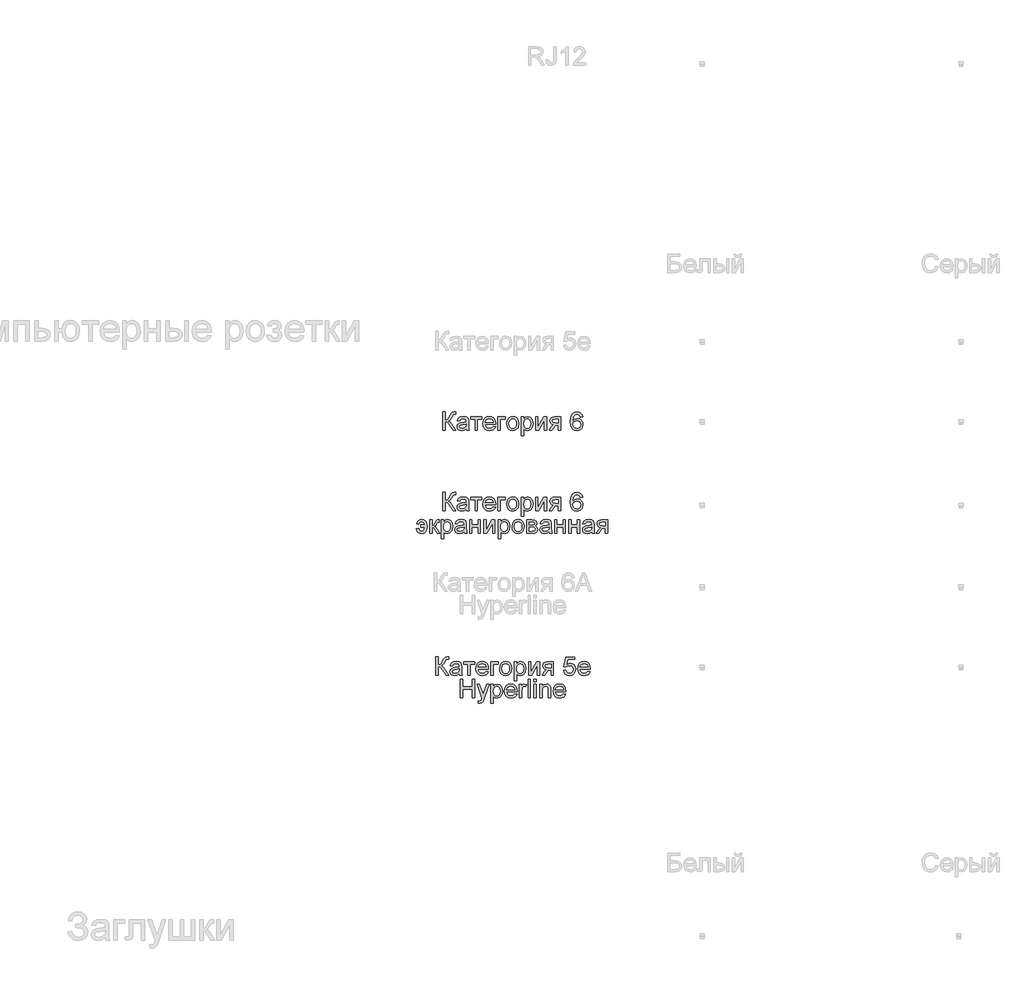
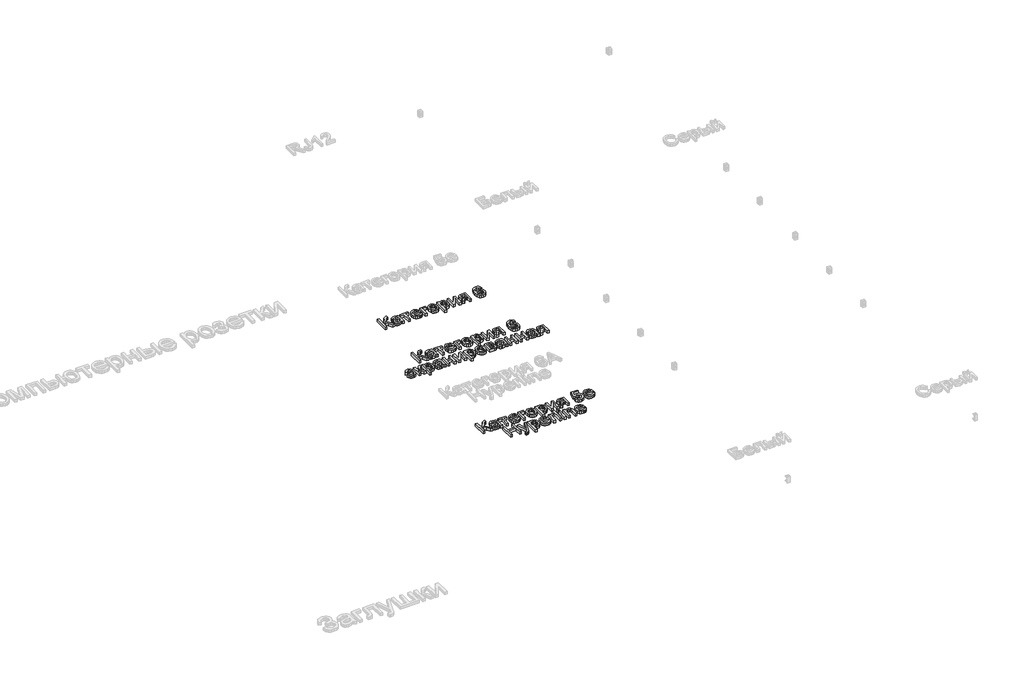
# One storey, part 8 of 15: 3 proxies.
"""IFC4 building model written with IfcOpenShell, lengths in millimetres."""

import ifcopenshell
import ifcopenshell.guid

model = None  # the IFC model being written
_history = None  # IfcOwnerHistory: only IFC2X3 demands one
_inside = {}  # id of a spatial element -> (the spatial element, [elements in it])
_under = {}  # id of a project, library or spatial element -> (it, [spatial elements below it])
_declared = {}  # id of a project -> (the project, [libraries it declares])
_typed = {}  # id of a type object -> (the type object, [elements of that type])
_made_of = {}  # id of a material, layer set ... -> (it, [elements and type objects made of it])


def new_model(schema):
    """Start an empty IFC model of exactly this schema.

    Asked for "IFC4X3", IfcOpenShell would pick the latest addendum, in which some entities
    have other attributes; the version numbers below select the first issue.
    IFC2X3 requires an IfcOwnerHistory on every rooted entity: one is made here for all.
    """
    global model, _history
    if schema == "IFC4X3":
        model = ifcopenshell.file(schema_version=(4, 3, 0, 0))
    else:
        model = ifcopenshell.file(schema=schema)
    _inside.clear()
    _under.clear()
    _declared.clear()
    _typed.clear()
    _made_of.clear()
    _history = None
    if model.schema == "IFC2X3":
        org = make("IfcOrganization", Name="unknown")
        user = make(
            "IfcPersonAndOrganization",
            ThePerson=make("IfcPerson", FamilyName="unknown"),
            TheOrganization=org,
        )
        app = make(
            "IfcApplication",
            ApplicationDeveloper=org,
            Version="unknown",
            ApplicationFullName="unknown",
            ApplicationIdentifier="unknown",
        )
        _history = make(
            "IfcOwnerHistory",
            OwningUser=user,
            OwningApplication=app,
            ChangeAction="ADDED",
            CreationDate=0,
        )
    return model


def make(cls, **values):
    """One entity of the class cls with the attributes given. An attribute that is None is left unset."""
    return model.create_entity(
        cls, **{name: value for name, value in values.items() if value is not None}
    )


def rooted(cls, **values):
    """An entity with a GlobalId (a new one), such as an element, a storey or a relation."""
    return make(cls, GlobalId=ifcopenshell.guid.new(), OwnerHistory=_history, **values)


def si_unit(unit_type, name, prefix=None):
    """IfcSIUnit, for example si_unit("LENGTHUNIT", "METRE", prefix="MILLI")."""
    return make("IfcSIUnit", UnitType=unit_type, Prefix=prefix, Name=name)


def assignment(units):
    """IfcUnitAssignment: the units of a project."""
    return None if units is None else make("IfcUnitAssignment", Units=units)


def point(xyz):
    """IfcCartesianPoint."""
    return None if xyz is None else make("IfcCartesianPoint", Coordinates=xyz)


def direction(xyz):
    """IfcDirection."""
    return None if xyz is None else make("IfcDirection", DirectionRatios=xyz)


def frame(location, z_axis=None, x_axis=None):
    """IfcAxis2Placement3D, a coordinate frame: its origin and axes. An axis left out is left unset."""
    return make(
        "IfcAxis2Placement3D",
        Location=point(location),
        Axis=direction(z_axis),
        RefDirection=direction(x_axis),
    )


def origin():
    """The frame at (0, 0, 0) with its axes left unset."""
    return frame((0.0, 0.0, 0.0))


def origin_with_axes():
    """The frame at (0, 0, 0) with the z axis (0, 0, 1) and the x axis (1, 0, 0) written out."""
    return frame((0.0, 0.0, 0.0), z_axis=(0.0, 0.0, 1.0), x_axis=(1.0, 0.0, 0.0))


def place(relative_to, where):
    """IfcLocalPlacement: puts the frame where relative to a parent placement (None: the world)."""
    return make(
        "IfcLocalPlacement", PlacementRelTo=relative_to, RelativePlacement=where
    )


def context(
    kind, dimensions, precision=None, world=None, true_north=None, identifier=None
):
    """IfcGeometricRepresentationContext, for example the 3D "Model" context."""
    return make(
        "IfcGeometricRepresentationContext",
        ContextIdentifier=identifier,
        ContextType=kind,
        CoordinateSpaceDimension=dimensions,
        Precision=precision,
        WorldCoordinateSystem=world,
        TrueNorth=true_north,
    )


def project(units=None, contexts=None):
    """IfcProject with its units and contexts."""
    return rooted(
        "IfcProject",
        Name="project",
        RepresentationContexts=contexts,
        UnitsInContext=assignment(units),
    )


def spatial(cls, under=None, at=None, **own):
    """A site, building, storey or space (cls), placed at a placement, below another one or the project."""
    s = rooted(cls, ObjectPlacement=at, **own)
    if under is not None:
        _under.setdefault(under.id(), (under, []))[1].append(s)
    return s


def polyline(points):
    """IfcPolyline through the points."""
    return make("IfcPolyline", Points=[point(p) for p in points])


def outline(outer, holes=None, kind="AREA"):
    """IfcArbitraryClosedProfileDef: a profile drawn as a closed curve; with holes, ...WithVoids."""
    if holes is None:
        return make("IfcArbitraryClosedProfileDef", ProfileType=kind, OuterCurve=outer)
    return make(
        "IfcArbitraryProfileDefWithVoids",
        ProfileType=kind,
        OuterCurve=outer,
        InnerCurves=holes,
    )


def extrude(swept, where, along, depth):
    """IfcExtrudedAreaSolid: the profile swept, set in the frame where, extruded along a direction by depth."""
    return make(
        "IfcExtrudedAreaSolid",
        SweptArea=swept,
        Position=where,
        ExtrudedDirection=direction(along),
        Depth=depth,
    )


def shape(context_of_items, identifier, shape_type, items):
    """IfcShapeRepresentation: the items that make up one representation, for example the "Body"."""
    return make(
        "IfcShapeRepresentation",
        ContextOfItems=context_of_items,
        RepresentationIdentifier=identifier,
        RepresentationType=shape_type,
        Items=items,
    )


def made_of(thing, what):
    """Note that an element or type object is made of a material, layer set ...; save() writes the relation."""
    if what is not None:
        _made_of.setdefault(what.id(), (what, []))[1].append(thing)
    return thing


def element(
    cls,
    number,
    at=None,
    inside=None,
    cuts=None,
    type_object=None,
    material=None,
    context=None,
    identifier="Body",
    shape_type=None,
    held_by="IfcProductDefinitionShape",
    body=None,
    shapes=None,
    **own,
):
    """One element of the class cls, such as IfcWall. Its Tag is "e" and its number.

    at: its placement. inside: the storey or other place that contains it. cuts: it is an
    opening in that element (IfcRelVoidsElement). A single representation is given by context,
    identifier, shape_type and body (its items); several are given by shapes. held_by: the class
    of the entity that holds the representations. save() writes the other relations.
    """
    e = rooted(cls, Tag="e%d" % number, ObjectPlacement=at, **own)
    if body is not None:
        shapes = [shape(context, identifier, shape_type, body)]
    if shapes is not None:
        e.Representation = make(held_by, Representations=shapes)
    if inside is not None:
        _inside.setdefault(inside.id(), (inside, []))[1].append(e)
    if cuts is not None:
        rooted(
            "IfcRelVoidsElement", RelatingBuildingElement=cuts, RelatedOpeningElement=e
        )
    if type_object is not None:
        _typed.setdefault(type_object.id(), (type_object, []))[1].append(e)
    return made_of(e, material)


def aggregate(whole, parts):
    """IfcRelAggregates: a whole, such as a stair, and the parts it consists of."""
    return rooted("IfcRelAggregates", RelatingObject=whole, RelatedObjects=parts)


def save(model, path):
    """Write the relations noted so far, then the file.

    IfcRelAggregates (storeys below a building ...), IfcRelContainedInSpatialStructure (elements
    in a storey), IfcRelDefinesByType, IfcRelAssociatesMaterial and IfcRelDeclares: one each for
    every whole, place, type object, material and project.
    """
    for whole, parts in _under.values():
        aggregate(whole, parts)
    for where, things in _inside.values():
        rooted(
            "IfcRelContainedInSpatialStructure",
            RelatedElements=things,
            RelatingStructure=where,
        )
    for kind, things in _typed.values():
        rooted("IfcRelDefinesByType", RelatedObjects=things, RelatingType=kind)
    for what, things in _made_of.values():
        rooted("IfcRelAssociatesMaterial", RelatedObjects=things, RelatingMaterial=what)
    for by, libraries in _declared.values():
        rooted("IfcRelDeclares", RelatingContext=by, RelatedDefinitions=libraries)
    model.write(path)


model = new_model("IFC4")

# Units and contexts
model_context = context("Model", 3, world=origin())
ifc_project = project(units=[si_unit("LENGTHUNIT", "METRE", prefix="MILLI")], contexts=[model_context])

# Site, building, storey
site = spatial("IfcSite", under=ifc_project)
building = spatial("IfcBuilding", under=site)
storey = spatial("IfcBuildingStorey", under=building, Name="Этаж 01", Elevation=0.0)

# Proxies
placement = place(None, origin())
element("IfcBuildingElementProxy", 1, Name="100 мм Arial", ObjectType="100 мм Arial", at=placement, inside=storey, context=model_context, shape_type="SweptSolid", body=[
    extrude(outline(polyline([(105.9153305, -6038.8364021), (118.4723693, -6038.8364021), (118.4723693, -6082.7860378), (132.5131987, -6079.4628371), (142.3111225, -6062.6506299), (149.2395668, -6048.6098004), (157.087716, -6041.6568307), (168.3081169, -6038.8364021), (176.5486736, -6038.9835549), (176.5486736, -6051.5405937), (173.7772959, -6051.4670173), (171.0059182, -6051.3934409), (161.1957316, -6054.4100732), (153.7399899, -6067.334994), (144.8495083, -6083.0803434), (136.179756, -6088.2797423), (145.8734465, -6093.9573877), (155.432247, -6105.7909252), (176.5486736, -6139.2927123), (161.9805466, -6139.2927123), (144.1260071, -6110.9903241), (131.5567056, -6096.2137306), (118.4723693, -6092.2038169), (118.4723693, -6139.2927123), (105.9153305, -6139.2927123), (105.9153305, -6038.8364021)])), origin_with_axes(), (0.0, 0.0, 1.0), 20.0),
    extrude(outline(polyline([(233.055348, -6129.8749332), (220.878454, -6138.38527), (207.4262357, -6140.8623421), (196.9324018, -6139.37242), (189.1915515, -6134.9026538), (184.4182826, -6128.115231), (182.827193, -6119.6723392), (185.2306887, -6109.7395253), (191.5459962, -6102.5290382), (200.3383759, -6098.4087599), (211.2031575, -6096.520299), (232.9817716, -6092.2038169), (233.055348, -6089.4079137), (229.5972573, -6080.1372874), (215.7158433, -6076.5075184), (203.0116518, -6078.9232768), (196.9538616, -6087.4949273), (184.3968228, -6085.9252975), (189.8292136, -6073.6625643), (200.7675716, -6066.4766027), (217.3345241, -6063.9504796), (232.552576, -6066.1822971), (241.1487519, -6071.7863661), (244.9992501, -6080.3089657), (245.6123868, -6091.2963746), (245.6123868, -6106.9190967), (246.2500489, -6128.734499), (248.7516465, -6139.2927123), (236.1946077, -6139.2927123), (233.055348, -6129.8749332)]), holes=[polyline([(233.055348, -6104.7608556), (212.7973128, -6108.6113539), (201.9938449, -6110.6469676), (197.1010144, -6113.9579055), (195.3842317, -6118.7894224), (199.1243653, -6125.5829766), (210.0995115, -6128.3053033), (222.8037031, -6125.3009337), (230.9952089, -6118.0291329), (232.9817716, -6108.3170483), (233.055348, -6104.7608556)])]), origin_with_axes(), (0.0, 0.0, 1.0), 20.0),
    extrude(outline(polyline([(256.5997957, -6065.5201095), (316.2457299, -6065.5201095), (316.2457299, -6078.0771483), (292.7012822, -6078.0771483), (292.7012822, -6139.2927123), (280.1442434, -6139.2927123), (280.1442434, -6078.0771483), (256.5997957, -6078.0771483), (256.5997957, -6065.5201095)])), origin_with_axes(), (0.0, 0.0, 1.0), 20.0),
    extrude(outline(polyline([(378.8837709, -6117.3178944), (391.195555, -6118.8875243), (386.7595113, -6128.1642819), (379.6808486, -6135.0988575), (370.1189824, -6139.421471), (358.2333283, -6140.8623421), (343.4996543, -6138.376073), (332.1627575, -6130.9172655), (324.9338763, -6118.9702977), (322.5242493, -6103.0195475), (324.9584018, -6086.5323028), (332.2608594, -6074.2021246), (343.444472, -6066.5133909), (357.5220897, -6063.9504796), (371.1613147, -6066.5072595), (382.0598188, -6074.1775991), (389.2059266, -6086.4832519), (391.5879625, -6102.9459711), (391.5143861, -6106.3304855), (335.081288, -6106.3304855), (337.2548575, -6115.7298705), (342.3040379, -6122.6399206), (349.591167, -6126.8889577), (358.4785829, -6128.3053033), (370.790367, -6125.6810784), (378.8837709, -6117.3178944)]), holes=[polyline([(335.081288, -6093.7734467), (379.0309237, -6093.7734467), (374.0032031, -6082.3936303), (366.6823514, -6077.9790464), (357.4730388, -6076.5075184), (342.0097323, -6081.2041452), (337.1444929, -6086.694784), (335.081288, -6093.7734467)])]), origin_with_axes(), (0.0, 0.0, 1.0), 20.0),
    extrude(outline(polyline([(404.1450012, -6065.5201095), (444.9553772, -6065.5201095), (444.9553772, -6078.0771483), (416.70204, -6078.0771483), (416.70204, -6139.2927123), (404.1450012, -6139.2927123), (404.1450012, -6065.5201095)])), origin_with_axes(), (0.0, 0.0, 1.0), 20.0),
    extrude(outline(polyline([(451.2338966, -6102.4064109), (453.950092, -6084.6193164), (462.0986782, -6072.1174599), (472.1663822, -6065.9922247), (484.2206489, -6063.9504796), (497.4122841, -6066.4367488), (507.9490376, -6073.8955562), (514.856022, -6085.7382908), (517.1583502, -6101.3763413), (513.0871228, -6123.7190411), (501.2290598, -6136.361919), (484.2206489, -6140.8623421), (470.8695981, -6138.38527), (460.3451074, -6130.9540537), (453.5116993, -6118.8629988), (451.2338966, -6102.4064109)]), holes=[polyline([(463.7909354, -6102.3818854), (465.2440693, -6113.7463734), (469.6034709, -6121.842843), (476.1640332, -6126.6896882), (484.2206489, -6128.3053033), (492.2404764, -6126.6804912), (498.7887759, -6121.8060548), (503.1481775, -6113.6022863), (504.6013114, -6101.9894779), (503.1389805, -6090.9560838), (498.7519877, -6082.9699788), (492.1944911, -6078.1231335), (484.2206489, -6076.5075184), (476.1640332, -6078.1170021), (469.6034709, -6082.9454533), (465.2440693, -6091.0235288), (463.7909354, -6102.3818854)])]), origin_with_axes(), (0.0, 0.0, 1.0), 20.0),
    extrude(outline(polyline([(531.2850188, -6167.5460495), (531.2850188, -6065.5201095), (543.8420576, -6065.5201095), (543.8420576, -6077.8318936), (552.5240726, -6067.4208331), (564.2472456, -6063.9504796), (580.1642732, -6068.806522), (590.5630709, -6082.4917322), (594.0702126, -6101.8423251), (590.1093498, -6122.1861995), (578.6069061, -6136.043088), (562.7266666, -6140.8623421), (551.8005714, -6137.6372433), (543.8420576, -6129.4825257), (543.8420576, -6167.5460495), (531.2850188, -6167.5460495)]), holes=[polyline([(543.8420576, -6102.9950221), (545.2001553, -6114.2522111), (549.2744483, -6122.1248858), (555.2862533, -6126.760199), (562.4568865, -6128.3053033), (569.7440157, -6126.7050167), (575.9091048, -6121.9041566), (580.1121566, -6113.7433077), (581.5131739, -6102.0630543), (580.1458791, -6090.867179), (576.0439949, -6082.8841397), (570.041387, -6078.1016737), (562.9719213, -6076.5075184), (555.8748645, -6078.2028413), (549.6423303, -6083.2888099), (545.2921257, -6091.6060086), (543.8420576, -6102.9950221)])]), origin_with_axes(), (0.0, 0.0, 1.0), 20.0),
    extrude(outline(polyline([(608.1968812, -6065.5201095), (620.75392, -6065.5201095), (620.75392, -6121.7815293), (651.6069567, -6065.5201095), (667.8428154, -6065.5201095), (667.8428154, -6139.2927123), (655.2857766, -6139.2927123), (655.2857766, -6083.374649), (624.6289437, -6139.2927123), (608.1968812, -6139.2927123), (608.1968812, -6065.5201095)])), origin_with_axes(), (0.0, 0.0, 1.0), 20.0),
    extrude(outline(polyline([(743.185048, -6065.5201095), (743.185048, -6139.2927123), (730.6280092, -6139.2927123), (730.6280092, -6111.039375), (723.7854041, -6111.039375), (714.4657269, -6112.6335303), (705.7101354, -6123.3511591), (695.7037452, -6139.2927123), (681.1846691, -6139.2927123), (693.7907588, -6119.1327789), (704.4838621, -6108.6849303), (695.8999489, -6106.054574), (689.8666842, -6101.0575102), (685.1087437, -6086.8327397), (686.7335558, -6078.2365638), (691.6079923, -6071.4307469), (699.5603747, -6066.9977688), (710.419025, -6065.5201095), (743.185048, -6065.5201095)]), holes=[polyline([(730.6280092, -6078.0771483), (714.0733195, -6078.0771483), (700.6701521, -6080.983416), (697.6657825, -6087.7892329), (702.0926291, -6095.8948996), (717.7766649, -6098.4823363), (730.6280092, -6098.4823363), (730.6280092, -6078.0771483)])]), origin_with_axes(), (0.0, 0.0, 1.0), 20.0),
    extrude(outline(polyline([(862.4769163, -6065.5201095), (849.9198775, -6067.0897393), (845.1619371, -6056.6173652), (832.5803728, -6051.3934409), (821.2496074, -6054.4345987), (812.6779569, -6065.8512033), (809.1095015, -6088.2306913), (820.1827496, -6078.2120383), (833.904748, -6074.9378886), (845.5052936, -6077.1758374), (855.2419037, -6083.8896838), (861.8453855, -6094.1474601), (864.0465462, -6107.0171985), (859.9017423, -6124.3444405), (848.4974005, -6136.6071737), (832.0408126, -6140.8623421), (817.7945823, -6138.0419135), (806.4484884, -6129.5806276), (799.0264692, -6114.6446186), (796.5524628, -6092.4000206), (799.299315, -6067.3901763), (807.5398717, -6050.2897949), (818.7909294, -6041.6997503), (833.3651878, -6038.8364021), (844.3832535, -6040.6083671), (853.20629, -6045.9242619), (859.3867075, -6054.3671537), (862.4769163, -6065.5201095)]), holes=[polyline([(809.1095015, -6106.8209948), (812.0157693, -6117.6980391), (819.7412912, -6125.5952393), (831.0597939, -6128.3053033), (839.3463359, -6126.9012204), (845.8609129, -6122.6889715), (850.0823588, -6116.0670956), (851.4895074, -6107.4341315), (850.1007529, -6099.1475895), (845.9344893, -6092.8292163), (839.3095477, -6088.8284996), (830.5447591, -6087.4949273), (815.3512327, -6092.8292163), (810.6699343, -6098.9943054), (809.1095015, -6106.8209948)])]), origin_with_axes(), (0.0, 0.0, 1.0), 20.0),
])
element("IfcBuildingElementProxy", 2, Name="100 мм Arial", ObjectType="100 мм Arial", at=placement, inside=storey, context=model_context, shape_type="SweptSolid", body=[
    extrude(outline(polyline([(105.9153305, -6473.8364021), (118.4723693, -6473.8364021), (118.4723693, -6517.7860378), (132.5131987, -6514.4628371), (142.3111225, -6497.6506299), (149.2395668, -6483.6098004), (157.087716, -6476.6568307), (168.3081169, -6473.8364021), (176.5486736, -6473.9835549), (176.5486736, -6486.5405937), (173.7772959, -6486.4670173), (171.0059182, -6486.3934409), (161.1957316, -6489.4100732), (153.7399899, -6502.334994), (144.8495083, -6518.0803434), (136.179756, -6523.2797423), (145.8734465, -6528.9573877), (155.432247, -6540.7909252), (176.5486736, -6574.2927123), (161.9805466, -6574.2927123), (144.1260071, -6545.9903241), (131.5567056, -6531.2137306), (118.4723693, -6527.2038169), (118.4723693, -6574.2927123), (105.9153305, -6574.2927123), (105.9153305, -6473.8364021)])), origin_with_axes(), (0.0, 0.0, 1.0), 20.0),
    extrude(outline(polyline([(233.055348, -6564.8749332), (220.878454, -6573.38527), (207.4262357, -6575.8623421), (196.9324018, -6574.37242), (189.1915515, -6569.9026538), (184.4182826, -6563.115231), (182.827193, -6554.6723392), (185.2306887, -6544.7395253), (191.5459962, -6537.5290382), (200.3383759, -6533.4087599), (211.2031575, -6531.520299), (232.9817716, -6527.2038169), (233.055348, -6524.4079137), (229.5972573, -6515.1372874), (215.7158433, -6511.5075184), (203.0116518, -6513.9232768), (196.9538616, -6522.4949273), (184.3968228, -6520.9252975), (189.8292136, -6508.6625643), (200.7675716, -6501.4766027), (217.3345241, -6498.9504796), (232.552576, -6501.1822971), (241.1487519, -6506.7863661), (244.9992501, -6515.3089657), (245.6123868, -6526.2963746), (245.6123868, -6541.9190967), (246.2500489, -6563.734499), (248.7516465, -6574.2927123), (236.1946077, -6574.2927123), (233.055348, -6564.8749332)]), holes=[polyline([(233.055348, -6539.7608556), (212.7973128, -6543.6113539), (201.9938449, -6545.6469676), (197.1010144, -6548.9579055), (195.3842317, -6553.7894224), (199.1243653, -6560.5829766), (210.0995115, -6563.3053033), (222.8037031, -6560.3009337), (230.9952089, -6553.0291329), (232.9817716, -6543.3170483), (233.055348, -6539.7608556)])]), origin_with_axes(), (0.0, 0.0, 1.0), 20.0),
    extrude(outline(polyline([(256.5997957, -6500.5201095), (316.2457299, -6500.5201095), (316.2457299, -6513.0771483), (292.7012822, -6513.0771483), (292.7012822, -6574.2927123), (280.1442434, -6574.2927123), (280.1442434, -6513.0771483), (256.5997957, -6513.0771483), (256.5997957, -6500.5201095)])), origin_with_axes(), (0.0, 0.0, 1.0), 20.0),
    extrude(outline(polyline([(378.8837709, -6552.3178944), (391.195555, -6553.8875243), (386.7595113, -6563.1642819), (379.6808486, -6570.0988575), (370.1189824, -6574.421471), (358.2333283, -6575.8623421), (343.4996543, -6573.376073), (332.1627575, -6565.9172655), (324.9338763, -6553.9702977), (322.5242493, -6538.0195475), (324.9584018, -6521.5323028), (332.2608594, -6509.2021246), (343.444472, -6501.5133909), (357.5220897, -6498.9504796), (371.1613147, -6501.5072595), (382.0598188, -6509.1775991), (389.2059266, -6521.4832519), (391.5879625, -6537.9459711), (391.5143861, -6541.3304855), (335.081288, -6541.3304855), (337.2548575, -6550.7298705), (342.3040379, -6557.6399206), (349.591167, -6561.8889577), (358.4785829, -6563.3053033), (370.790367, -6560.6810784), (378.8837709, -6552.3178944)]), holes=[polyline([(335.081288, -6528.7734467), (379.0309237, -6528.7734467), (374.0032031, -6517.3936303), (366.6823514, -6512.9790464), (357.4730388, -6511.5075184), (342.0097323, -6516.2041452), (337.1444929, -6521.694784), (335.081288, -6528.7734467)])]), origin_with_axes(), (0.0, 0.0, 1.0), 20.0),
    extrude(outline(polyline([(404.1450012, -6500.5201095), (444.9553772, -6500.5201095), (444.9553772, -6513.0771483), (416.70204, -6513.0771483), (416.70204, -6574.2927123), (404.1450012, -6574.2927123), (404.1450012, -6500.5201095)])), origin_with_axes(), (0.0, 0.0, 1.0), 20.0),
    extrude(outline(polyline([(451.2338966, -6537.4064109), (453.950092, -6519.6193164), (462.0986782, -6507.1174599), (472.1663822, -6500.9922247), (484.2206489, -6498.9504796), (497.4122841, -6501.4367488), (507.9490376, -6508.8955562), (514.856022, -6520.7382908), (517.1583502, -6536.3763413), (513.0871228, -6558.7190411), (501.2290598, -6571.361919), (484.2206489, -6575.8623421), (470.8695981, -6573.38527), (460.3451074, -6565.9540537), (453.5116993, -6553.8629988), (451.2338966, -6537.4064109)]), holes=[polyline([(463.7909354, -6537.3818854), (465.2440693, -6548.7463734), (469.6034709, -6556.842843), (476.1640332, -6561.6896882), (484.2206489, -6563.3053033), (492.2404764, -6561.6804912), (498.7887759, -6556.8060548), (503.1481775, -6548.6022863), (504.6013114, -6536.9894779), (503.1389805, -6525.9560838), (498.7519877, -6517.9699788), (492.1944911, -6513.1231335), (484.2206489, -6511.5075184), (476.1640332, -6513.1170021), (469.6034709, -6517.9454533), (465.2440693, -6526.0235288), (463.7909354, -6537.3818854)])]), origin_with_axes(), (0.0, 0.0, 1.0), 20.0),
    extrude(outline(polyline([(531.2850188, -6602.5460495), (531.2850188, -6500.5201095), (543.8420576, -6500.5201095), (543.8420576, -6512.8318936), (552.5240726, -6502.4208331), (564.2472456, -6498.9504796), (580.1642732, -6503.806522), (590.5630709, -6517.4917322), (594.0702126, -6536.8423251), (590.1093498, -6557.1861995), (578.6069061, -6571.043088), (562.7266666, -6575.8623421), (551.8005714, -6572.6372433), (543.8420576, -6564.4825257), (543.8420576, -6602.5460495), (531.2850188, -6602.5460495)]), holes=[polyline([(543.8420576, -6537.9950221), (545.2001553, -6549.2522111), (549.2744483, -6557.1248858), (555.2862533, -6561.760199), (562.4568865, -6563.3053033), (569.7440157, -6561.7050167), (575.9091048, -6556.9041566), (580.1121566, -6548.7433077), (581.5131739, -6537.0630543), (580.1458791, -6525.867179), (576.0439949, -6517.8841397), (570.041387, -6513.1016737), (562.9719213, -6511.5075184), (555.8748645, -6513.2028413), (549.6423303, -6518.2888099), (545.2921257, -6526.6060086), (543.8420576, -6537.9950221)])]), origin_with_axes(), (0.0, 0.0, 1.0), 20.0),
    extrude(outline(polyline([(608.1968812, -6500.5201095), (620.75392, -6500.5201095), (620.75392, -6556.7815293), (651.6069567, -6500.5201095), (667.8428154, -6500.5201095), (667.8428154, -6574.2927123), (655.2857766, -6574.2927123), (655.2857766, -6518.374649), (624.6289437, -6574.2927123), (608.1968812, -6574.2927123), (608.1968812, -6500.5201095)])), origin_with_axes(), (0.0, 0.0, 1.0), 20.0),
    extrude(outline(polyline([(743.185048, -6500.5201095), (743.185048, -6574.2927123), (730.6280092, -6574.2927123), (730.6280092, -6546.039375), (723.7854041, -6546.039375), (714.4657269, -6547.6335303), (705.7101354, -6558.3511591), (695.7037452, -6574.2927123), (681.1846691, -6574.2927123), (693.7907588, -6554.1327789), (704.4838621, -6543.6849303), (695.8999489, -6541.054574), (689.8666842, -6536.0575102), (685.1087437, -6521.8327397), (686.7335558, -6513.2365638), (691.6079923, -6506.4307469), (699.5603747, -6501.9977688), (710.419025, -6500.5201095), (743.185048, -6500.5201095)]), holes=[polyline([(730.6280092, -6513.0771483), (714.0733195, -6513.0771483), (700.6701521, -6515.983416), (697.6657825, -6522.7892329), (702.0926291, -6530.8948996), (717.7766649, -6533.4823363), (730.6280092, -6533.4823363), (730.6280092, -6513.0771483)])]), origin_with_axes(), (0.0, 0.0, 1.0), 20.0),
    extrude(outline(polyline([(862.4769163, -6500.5201095), (849.9198775, -6502.0897393), (845.1619371, -6491.6173652), (832.5803728, -6486.3934409), (821.2496074, -6489.4345987), (812.6779569, -6500.8512033), (809.1095015, -6523.2306913), (820.1827496, -6513.2120383), (833.904748, -6509.9378886), (845.5052936, -6512.1758374), (855.2419037, -6518.8896838), (861.8453855, -6529.1474601), (864.0465462, -6542.0171985), (859.9017423, -6559.3444405), (848.4974005, -6571.6071737), (832.0408126, -6575.8623421), (817.7945823, -6573.0419135), (806.4484884, -6564.5806276), (799.0264692, -6549.6446186), (796.5524628, -6527.4000206), (799.299315, -6502.3901763), (807.5398717, -6485.2897949), (818.7909294, -6476.6997503), (833.3651878, -6473.8364021), (844.3832535, -6475.6083671), (853.20629, -6480.9242619), (859.3867075, -6489.3671537), (862.4769163, -6500.5201095)]), holes=[polyline([(809.1095015, -6541.8209948), (812.0157693, -6552.6980391), (819.7412912, -6560.5952393), (831.0597939, -6563.3053033), (839.3463359, -6561.9012204), (845.8609129, -6557.6889715), (850.0823588, -6551.0670956), (851.4895074, -6542.4341315), (850.1007529, -6534.1475895), (845.9344893, -6527.8292163), (839.3095477, -6523.8284996), (830.5447591, -6522.4949273), (815.3512327, -6527.8292163), (810.6699343, -6533.9943054), (809.1095015, -6541.8209948)])]), origin_with_axes(), (0.0, 0.0, 1.0), 20.0),
    extrude(outline(polyline([(-14.1613527, -6650.7482646), (9.383095, -6650.7482646), (3.7054495, -6638.2770649), (-8.2261899, -6633.4823363), (-18.4042584, -6636.621596), (-23.5791318, -6646.039375), (-36.1361706, -6644.4697452), (-33.208443, -6635.0427691), (-27.5154692, -6627.5103852), (-19.3454232, -6622.5715694), (-8.9864793, -6620.9252975), (3.8311425, -6623.4882087), (13.6382634, -6631.1769424), (19.8646661, -6643.3538365), (21.9401337, -6659.3812287), (20.2264168, -6675.3350446), (14.300451, -6687.8798206), (4.6159574, -6695.7892835), (-8.3733427, -6697.8371599), (-19.5079044, -6696.0008157), (-28.2880213, -6690.4917828), (-34.4439134, -6681.9845116), (-37.7058004, -6671.1534526), (-25.1487617, -6669.5838227), (-19.7408963, -6681.3560466), (-8.5695464, -6685.2801212), (-1.4755553, -6683.9066951), (3.864865, -6679.7864167), (9.383095, -6663.3053033), (-14.1613527, -6663.3053033), (-14.1613527, -6650.7482646)])), origin_with_axes(), (0.0, 0.0, 1.0), 20.0),
    extrude(outline(polyline([(36.0668023, -6622.4949273), (48.6238411, -6622.4949273), (48.6238411, -6653.8875243), (57.0360761, -6651.6311814), (63.9277321, -6638.4855314), (69.6544285, -6627.1425032), (74.7066746, -6623.4514205), (83.8914617, -6622.4949273), (86.2949574, -6622.4949273), (86.2949574, -6635.1255425), (82.9104431, -6635.0519661), (76.7790765, -6636.3763413), (72.4625944, -6644.6414234), (67.3980856, -6653.5809559), (60.2979631, -6657.9587517), (68.2196887, -6662.8454508), (75.9942616, -6673.1400153), (89.4342171, -6696.2675301), (75.1603957, -6696.2675301), (61.9902203, -6673.6305247), (55.3683444, -6664.0533301), (48.6238411, -6661.7356735), (48.6238411, -6696.2675301), (36.0668023, -6696.2675301), (36.0668023, -6622.4949273)])), origin_with_axes(), (0.0, 0.0, 1.0), 20.0),
    extrude(outline(polyline([(97.2823663, -6724.5208673), (97.2823663, -6622.4949273), (109.8394051, -6622.4949273), (109.8394051, -6634.8067114), (118.5214202, -6624.395651), (130.2445931, -6620.9252975), (146.1616208, -6625.7813398), (156.5604185, -6639.46655), (160.0675602, -6658.817143), (156.1066974, -6679.1610173), (144.6042537, -6693.0179058), (128.7240142, -6697.8371599), (117.7979189, -6694.6120611), (109.8394051, -6686.4573436), (109.8394051, -6724.5208673), (97.2823663, -6724.5208673)]), holes=[polyline([(109.8394051, -6659.9698399), (111.1975028, -6671.227029), (115.2717959, -6679.0997037), (121.2836008, -6683.7350168), (128.4542341, -6685.2801212), (135.7413633, -6683.6798345), (141.9064524, -6678.8789745), (146.1095041, -6670.7181255), (147.5105214, -6659.0378722), (146.1432267, -6647.8419968), (142.0413424, -6639.8589575), (136.0387345, -6635.0764916), (128.9692689, -6633.4823363), (121.872212, -6635.1776591), (115.6396779, -6640.2636277), (111.2894733, -6648.5808265), (109.8394051, -6659.9698399)])]), origin_with_axes(), (0.0, 0.0, 1.0), 20.0),
    extrude(outline(polyline([(221.2831242, -6686.849751), (209.1062301, -6695.3600878), (195.6540118, -6697.8371599), (185.1601779, -6696.3472379), (177.4193276, -6691.8774716), (172.6460587, -6685.0900488), (171.0549691, -6676.647157), (173.4584648, -6666.7143432), (179.7737724, -6659.5038561), (188.5661521, -6655.3835777), (199.4309337, -6653.4951168), (221.2095478, -6649.1786347), (221.2831242, -6646.3827316), (217.8250334, -6637.1121053), (203.9436195, -6633.4823363), (191.2394279, -6635.8980947), (185.1816377, -6644.4697452), (172.624599, -6642.9001153), (178.0569897, -6630.6373822), (188.9953477, -6623.4514205), (205.5623003, -6620.9252975), (220.7803521, -6623.1571149), (229.3765281, -6628.761184), (233.2270263, -6637.2837835), (233.8401629, -6648.2711925), (233.8401629, -6663.8939145), (234.4778251, -6685.7093168), (236.9794226, -6696.2675301), (224.4223839, -6696.2675301), (221.2831242, -6686.849751)]), holes=[polyline([(221.2831242, -6661.7356735), (201.025089, -6665.5861717), (190.2216211, -6667.6217854), (185.3287905, -6670.9327234), (183.6120079, -6675.7642402), (187.3521415, -6682.5577944), (198.3272877, -6685.2801212), (211.0314792, -6682.2757516), (219.222985, -6675.0039508), (221.2095478, -6665.2918661), (221.2831242, -6661.7356735)])]), origin_with_axes(), (0.0, 0.0, 1.0), 20.0),
    extrude(outline(polyline([(251.1060913, -6622.4949273), (263.66313, -6622.4949273), (263.66313, -6650.7482646), (296.6253568, -6650.7482646), (296.6253568, -6622.4949273), (309.1823956, -6622.4949273), (309.1823956, -6696.2675301), (296.6253568, -6696.2675301), (296.6253568, -6663.3053033), (263.66313, -6663.3053033), (263.66313, -6696.2675301), (251.1060913, -6696.2675301), (251.1060913, -6622.4949273)])), origin_with_axes(), (0.0, 0.0, 1.0), 20.0),
    extrude(outline(polyline([(328.0179537, -6622.4949273), (340.5749925, -6622.4949273), (340.5749925, -6678.7563471), (371.4280291, -6622.4949273), (387.6638879, -6622.4949273), (387.6638879, -6696.2675301), (375.1068491, -6696.2675301), (375.1068491, -6640.3494668), (344.4500162, -6696.2675301), (328.0179537, -6696.2675301), (328.0179537, -6622.4949273)])), origin_with_axes(), (0.0, 0.0, 1.0), 20.0),
    extrude(outline(polyline([(406.499446, -6724.5208673), (406.499446, -6622.4949273), (419.0564848, -6622.4949273), (419.0564848, -6634.8067114), (427.7384999, -6624.395651), (439.4616728, -6620.9252975), (455.3787004, -6625.7813398), (465.7774982, -6639.46655), (469.2846399, -6658.817143), (465.323777, -6679.1610173), (453.8213333, -6693.0179058), (437.9410939, -6697.8371599), (427.0149986, -6694.6120611), (419.0564848, -6686.4573436), (419.0564848, -6724.5208673), (406.499446, -6724.5208673)]), holes=[polyline([(419.0564848, -6659.9698399), (420.4145825, -6671.227029), (424.4888756, -6679.0997037), (430.5006805, -6683.7350168), (437.6713137, -6685.2801212), (444.9584429, -6683.6798345), (451.123532, -6678.8789745), (455.3265838, -6670.7181255), (456.7276011, -6659.0378722), (455.3603063, -6647.8419968), (451.2584221, -6639.8589575), (445.2558142, -6635.0764916), (438.1863485, -6633.4823363), (431.0892917, -6635.1776591), (424.8567576, -6640.2636277), (420.506553, -6648.5808265), (419.0564848, -6659.9698399)])]), origin_with_axes(), (0.0, 0.0, 1.0), 20.0),
    extrude(outline(polyline([(480.2720488, -6659.3812287), (482.9882442, -6641.5941343), (491.1368304, -6629.0922778), (501.2045343, -6622.9670426), (513.258801, -6620.9252975), (526.4504362, -6623.4115666), (536.9871897, -6630.8703741), (543.8941742, -6642.7131087), (546.1965023, -6658.3511591), (542.1252749, -6680.693859), (530.2672119, -6693.3367369), (513.258801, -6697.8371599), (499.9077503, -6695.3600878), (489.3832595, -6687.9288715), (482.5498515, -6675.8378166), (480.2720488, -6659.3812287)]), holes=[polyline([(492.8290876, -6659.3567033), (494.2822214, -6670.7211912), (498.6416231, -6678.8176608), (505.2021853, -6683.6645061), (513.258801, -6685.2801212), (521.2786285, -6683.655309), (527.826928, -6678.7808726), (532.1863297, -6670.5771041), (533.6394636, -6658.9642958), (532.1771326, -6647.9309016), (527.7901398, -6639.9447966), (521.2326433, -6635.0979514), (513.258801, -6633.4823363), (505.2021853, -6635.09182), (498.6416231, -6639.9202712), (494.2822214, -6647.9983467), (492.8290876, -6659.3567033)])]), origin_with_axes(), (0.0, 0.0, 1.0), 20.0),
    extrude(outline(polyline([(560.3231709, -6622.4949273), (587.987897, -6622.4949273), (603.1568979, -6624.1749218), (611.6917602, -6630.3308138), (615.2602155, -6641.0607054), (613.1019745, -6649.7795086), (606.6027259, -6655.9967144), (615.0394864, -6662.8025313), (618.3994752, -6674.6360688), (616.271891, -6684.207132), (611.2135136, -6690.9455039), (603.2059488, -6694.9370236), (592.2308027, -6696.2675301), (560.3231709, -6696.2675301), (560.3231709, -6622.4949273)]), holes=[polyline([(572.8802097, -6650.7482646), (585.2900957, -6650.7482646), (595.5294779, -6650.1106024), (600.5081475, -6647.5599539), (602.7031768, -6642.9491663), (598.8526786, -6636.7932742), (585.6825031, -6635.0519661), (572.8802097, -6635.0519661), (572.8802097, -6650.7482646)]), polyline([(572.8802097, -6683.7104913), (588.2822026, -6683.7104913), (601.9428873, -6681.4418857), (605.8424365, -6673.6059992), (603.6964582, -6667.5604717), (598.1046518, -6664.0410673), (587.0559293, -6663.3053033), (572.8802097, -6663.3053033), (572.8802097, -6683.7104913)])]), origin_with_axes(), (0.0, 0.0, 1.0), 20.0),
    extrude(outline(polyline([(681.1846691, -6686.849751), (669.007775, -6695.3600878), (655.5555568, -6697.8371599), (645.0617228, -6696.3472379), (637.3208725, -6691.8774716), (632.5476036, -6685.0900488), (630.956514, -6676.647157), (633.3600097, -6666.7143432), (639.6753173, -6659.5038561), (648.467697, -6655.3835777), (659.3324786, -6653.4951168), (681.1110927, -6649.1786347), (681.1846691, -6646.3827316), (677.7265783, -6637.1121053), (663.8451644, -6633.4823363), (651.1409728, -6635.8980947), (645.0831826, -6644.4697452), (632.5261439, -6642.9001153), (637.9585347, -6630.6373822), (648.8968926, -6623.4514205), (665.4638452, -6620.9252975), (680.681897, -6623.1571149), (689.278073, -6628.761184), (693.1285712, -6637.2837835), (693.7417079, -6648.2711925), (693.7417079, -6663.8939145), (694.37937, -6685.7093168), (696.8809675, -6696.2675301), (684.3239288, -6696.2675301), (681.1846691, -6686.849751)]), holes=[polyline([(681.1846691, -6661.7356735), (660.9266339, -6665.5861717), (650.123166, -6667.6217854), (645.2303354, -6670.9327234), (643.5135528, -6675.7642402), (647.2536864, -6682.5577944), (658.2288326, -6685.2801212), (670.9330242, -6682.2757516), (679.1245299, -6675.0039508), (681.1110927, -6665.2918661), (681.1846691, -6661.7356735)])]), origin_with_axes(), (0.0, 0.0, 1.0), 20.0),
    extrude(outline(polyline([(711.0076362, -6622.4949273), (723.5646749, -6622.4949273), (723.5646749, -6650.7482646), (756.5269017, -6650.7482646), (756.5269017, -6622.4949273), (769.0839405, -6622.4949273), (769.0839405, -6696.2675301), (756.5269017, -6696.2675301), (756.5269017, -6663.3053033), (723.5646749, -6663.3053033), (723.5646749, -6696.2675301), (711.0076362, -6696.2675301), (711.0076362, -6622.4949273)])), origin_with_axes(), (0.0, 0.0, 1.0), 20.0),
    extrude(outline(polyline([(787.9194986, -6622.4949273), (800.4765374, -6622.4949273), (800.4765374, -6650.7482646), (833.4387642, -6650.7482646), (833.4387642, -6622.4949273), (845.9958029, -6622.4949273), (845.9958029, -6696.2675301), (833.4387642, -6696.2675301), (833.4387642, -6663.3053033), (800.4765374, -6663.3053033), (800.4765374, -6696.2675301), (787.9194986, -6696.2675301), (787.9194986, -6622.4949273)])), origin_with_axes(), (0.0, 0.0, 1.0), 20.0),
    extrude(outline(polyline([(911.9202565, -6686.849751), (899.7433624, -6695.3600878), (886.2911441, -6697.8371599), (875.7973102, -6696.3472379), (868.0564599, -6691.8774716), (863.283191, -6685.0900488), (861.6921014, -6676.647157), (864.0955971, -6666.7143432), (870.4109047, -6659.5038561), (879.2032844, -6655.3835777), (890.0680659, -6653.4951168), (911.8466801, -6649.1786347), (911.9202565, -6646.3827316), (908.4621657, -6637.1121053), (894.5807518, -6633.4823363), (881.8765602, -6635.8980947), (875.81877, -6644.4697452), (863.2617312, -6642.9001153), (868.694122, -6630.6373822), (879.63248, -6623.4514205), (896.1994325, -6620.9252975), (911.4174844, -6623.1571149), (920.0136604, -6628.761184), (923.8641586, -6637.2837835), (924.4772952, -6648.2711925), (924.4772952, -6663.8939145), (925.1149574, -6685.7093168), (927.6165549, -6696.2675301), (915.0595162, -6696.2675301), (911.9202565, -6686.849751)]), holes=[polyline([(911.9202565, -6661.7356735), (891.6622213, -6665.5861717), (880.8587533, -6667.6217854), (875.9659228, -6670.9327234), (874.2491402, -6675.7642402), (877.9892738, -6682.5577944), (888.96442, -6685.2801212), (901.6686115, -6682.2757516), (909.8601173, -6675.0039508), (911.8466801, -6665.2918661), (911.9202565, -6661.7356735)])]), origin_with_axes(), (0.0, 0.0, 1.0), 20.0),
    extrude(outline(polyline([(998.249898, -6622.4949273), (998.249898, -6696.2675301), (985.6928592, -6696.2675301), (985.6928592, -6668.0141929), (978.8502541, -6668.0141929), (969.5305769, -6669.6083482), (960.7749854, -6680.325977), (950.7685951, -6696.2675301), (936.2495191, -6696.2675301), (948.8556088, -6676.1075968), (959.5487121, -6665.6597481), (950.9647989, -6663.0293918), (944.9315342, -6658.0323281), (940.1735937, -6643.8075576), (941.7984058, -6635.2113816), (946.6728423, -6628.4055647), (954.6252247, -6623.9725867), (965.483875, -6622.4949273), (998.249898, -6622.4949273)]), holes=[polyline([(985.6928592, -6635.0519661), (969.1381694, -6635.0519661), (955.7350021, -6637.9582339), (952.7306325, -6644.7640508), (957.1574791, -6652.8697174), (972.8415149, -6655.4571541), (985.6928592, -6655.4571541), (985.6928592, -6635.0519661)])]), origin_with_axes(), (0.0, 0.0, 1.0), 20.0),
])
element("IfcBuildingElementProxy", 3, Name="100 мм Arial", ObjectType="100 мм Arial", at=placement, inside=storey, context=model_context, shape_type="SweptSolid", body=[
    extrude(outline(polyline([(67.4593993, -7363.8364021), (80.016438, -7363.8364021), (80.016438, -7407.7860378), (94.0572675, -7404.4628371), (103.8551913, -7387.6506299), (110.7836356, -7373.6098004), (118.6317848, -7366.6568307), (129.8521856, -7363.8364021), (138.0927423, -7363.9835549), (138.0927423, -7376.5405937), (135.3213646, -7376.4670173), (132.5499869, -7376.3934409), (122.7398004, -7379.4100732), (115.2840586, -7392.334994), (106.3935771, -7408.0803434), (97.7238247, -7413.2797423), (107.4175153, -7418.9573877), (116.9763158, -7430.7909252), (138.0927423, -7464.2927123), (123.5246153, -7464.2927123), (105.6700758, -7435.9903241), (93.1007743, -7421.2137306), (80.016438, -7417.2038169), (80.016438, -7464.2927123), (67.4593993, -7464.2927123), (67.4593993, -7363.8364021)])), origin_with_axes(), (0.0, 0.0, 1.0), 20.0),
    extrude(outline(polyline([(194.5994168, -7454.8749332), (182.4225228, -7463.38527), (168.9703045, -7465.8623421), (158.4764706, -7464.37242), (150.7356202, -7459.9026538), (145.9623514, -7453.115231), (144.3712617, -7444.6723392), (146.7747574, -7434.7395253), (153.090065, -7427.5290382), (161.8824447, -7423.4087599), (172.7472263, -7421.520299), (194.5258404, -7417.2038169), (194.5994168, -7414.4079137), (191.141326, -7405.1372874), (177.2599121, -7401.5075184), (164.5557205, -7403.9232768), (158.4979303, -7412.4949273), (145.9408916, -7410.9252975), (151.3732824, -7398.6625643), (162.3116404, -7391.4766027), (178.8785929, -7388.9504796), (194.0966447, -7391.1822971), (202.6928207, -7396.7863661), (206.5433189, -7405.3089657), (207.1564556, -7416.2963746), (207.1564556, -7431.9190967), (207.7941177, -7453.734499), (210.2957153, -7464.2927123), (197.7386765, -7464.2927123), (194.5994168, -7454.8749332)]), holes=[polyline([(194.5994168, -7429.7608556), (174.3413816, -7433.6113539), (163.5379137, -7435.6469676), (158.6450831, -7438.9579055), (156.9283005, -7443.7894224), (160.6684341, -7450.5829766), (171.6435803, -7453.3053033), (184.3477719, -7450.3009337), (192.5392776, -7443.0291329), (194.5258404, -7433.3170483), (194.5994168, -7429.7608556)])]), origin_with_axes(), (0.0, 0.0, 1.0), 20.0),
    extrude(outline(polyline([(218.1438645, -7390.5201095), (277.7897986, -7390.5201095), (277.7897986, -7403.0771483), (254.2453509, -7403.0771483), (254.2453509, -7464.2927123), (241.6883122, -7464.2927123), (241.6883122, -7403.0771483), (218.1438645, -7403.0771483), (218.1438645, -7390.5201095)])), origin_with_axes(), (0.0, 0.0, 1.0), 20.0),
    extrude(outline(polyline([(340.4278397, -7442.3178944), (352.7396238, -7443.8875243), (348.3035801, -7453.1642819), (341.2249173, -7460.0988575), (331.6630511, -7464.421471), (319.777397, -7465.8623421), (305.0437231, -7463.376073), (293.7068263, -7455.9172655), (286.4779451, -7443.9702977), (284.068318, -7428.0195475), (286.5024706, -7411.5323028), (293.8049282, -7399.2021246), (304.9885408, -7391.5133909), (319.0661585, -7388.9504796), (332.7053835, -7391.5072595), (343.6038876, -7399.1775991), (350.7499953, -7411.4832519), (353.1320313, -7427.9459711), (353.0584549, -7431.3304855), (296.6253568, -7431.3304855), (298.7989262, -7440.7298705), (303.8481066, -7447.6399206), (311.1352358, -7451.8889577), (320.0226517, -7453.3053033), (332.3344358, -7450.6810784), (340.4278397, -7442.3178944)]), holes=[polyline([(296.6253568, -7418.7734467), (340.5749925, -7418.7734467), (335.5472719, -7407.3936303), (328.2264202, -7402.9790464), (319.0171076, -7401.5075184), (303.553801, -7406.2041452), (298.6885616, -7411.694784), (296.6253568, -7418.7734467)])]), origin_with_axes(), (0.0, 0.0, 1.0), 20.0),
    extrude(outline(polyline([(365.68907, -7390.5201095), (406.499446, -7390.5201095), (406.499446, -7403.0771483), (378.2461088, -7403.0771483), (378.2461088, -7464.2927123), (365.68907, -7464.2927123), (365.68907, -7390.5201095)])), origin_with_axes(), (0.0, 0.0, 1.0), 20.0),
    extrude(outline(polyline([(412.7779654, -7427.4064109), (415.4941608, -7409.6193164), (423.642747, -7397.1174599), (433.7104509, -7390.9922247), (445.7647176, -7388.9504796), (458.9563528, -7391.4367488), (469.4931063, -7398.8955562), (476.4000908, -7410.7382908), (478.7024189, -7426.3763413), (474.6311915, -7448.7190411), (462.7731285, -7461.361919), (445.7647176, -7465.8623421), (432.4136669, -7463.38527), (421.8891762, -7455.9540537), (415.0557681, -7443.8629988), (412.7779654, -7427.4064109)]), holes=[polyline([(425.3350042, -7427.3818854), (426.7881381, -7438.7463734), (431.1475397, -7446.842843), (437.7081019, -7451.6896882), (445.7647176, -7453.3053033), (453.7845451, -7451.6804912), (460.3328446, -7446.8060548), (464.6922463, -7438.6022863), (466.1453802, -7426.9894779), (464.6830492, -7415.9560838), (460.2960564, -7407.9699788), (453.7385599, -7403.1231335), (445.7647176, -7401.5075184), (437.7081019, -7403.1170021), (431.1475397, -7407.9454533), (426.7881381, -7416.0235288), (425.3350042, -7427.3818854)])]), origin_with_axes(), (0.0, 0.0, 1.0), 20.0),
    extrude(outline(polyline([(492.8290876, -7492.5460495), (492.8290876, -7390.5201095), (505.3861263, -7390.5201095), (505.3861263, -7402.8318936), (514.0681414, -7392.4208331), (525.7913143, -7388.9504796), (541.708342, -7393.806522), (552.1071397, -7407.4917322), (555.6142814, -7426.8423251), (551.6534186, -7447.1861995), (540.1509749, -7461.043088), (524.2707354, -7465.8623421), (513.3446402, -7462.6372433), (505.3861263, -7454.4825257), (505.3861263, -7492.5460495), (492.8290876, -7492.5460495)]), holes=[polyline([(505.3861263, -7427.9950221), (506.744224, -7439.2522111), (510.8185171, -7447.1248858), (516.8303221, -7451.760199), (524.0009553, -7453.3053033), (531.2880845, -7451.7050167), (537.4531736, -7446.9041566), (541.6562254, -7438.7433077), (543.0572426, -7427.0630543), (541.6899479, -7415.867179), (537.5880636, -7407.8841397), (531.5854557, -7403.1016737), (524.5159901, -7401.5075184), (517.4189332, -7403.2028413), (511.1863991, -7408.2888099), (506.8361945, -7416.6060086), (505.3861263, -7427.9950221)])]), origin_with_axes(), (0.0, 0.0, 1.0), 20.0),
    extrude(outline(polyline([(569.74095, -7390.5201095), (582.2979888, -7390.5201095), (582.2979888, -7446.7815293), (613.1510254, -7390.5201095), (629.3868842, -7390.5201095), (629.3868842, -7464.2927123), (616.8298454, -7464.2927123), (616.8298454, -7408.374649), (586.1730125, -7464.2927123), (569.74095, -7464.2927123), (569.74095, -7390.5201095)])), origin_with_axes(), (0.0, 0.0, 1.0), 20.0),
    extrude(outline(polyline([(704.7291168, -7390.5201095), (704.7291168, -7464.2927123), (692.172078, -7464.2927123), (692.172078, -7436.039375), (685.3294729, -7436.039375), (676.0097957, -7437.6335303), (667.2542042, -7448.3511591), (657.2478139, -7464.2927123), (642.7287379, -7464.2927123), (655.3348276, -7444.1327789), (666.0279309, -7433.6849303), (657.4440177, -7431.054574), (651.4107529, -7426.0575102), (646.6528125, -7411.8327397), (648.2776246, -7403.2365638), (653.1520611, -7396.4307469), (661.1044435, -7391.9977688), (671.9630937, -7390.5201095), (704.7291168, -7390.5201095)]), holes=[polyline([(692.172078, -7403.0771483), (675.6173882, -7403.0771483), (662.2142209, -7405.983416), (659.2098512, -7412.7892329), (663.6366979, -7420.8948996), (679.3207336, -7423.4823363), (692.172078, -7423.4823363), (692.172078, -7403.0771483)])]), origin_with_axes(), (0.0, 0.0, 1.0), 20.0),
    extrude(outline(polyline([(759.6661614, -7437.6090049), (772.2232002, -7436.039375), (778.5507705, -7448.9765585), (791.671895, -7453.3053033), (800.6727411, -7451.8000528), (807.4172444, -7447.2843013), (811.6294932, -7440.279215), (813.0335762, -7431.30596), (807.7728636, -7416.3944765), (801.1663161, -7412.2925922), (791.8680987, -7410.9252975), (780.8439016, -7413.108064), (773.79283, -7418.7734467), (761.2357912, -7417.2038169), (772.2232002, -7365.406032), (820.8817254, -7365.406032), (820.8817254, -7377.9630707), (782.3767432, -7377.9630707), (777.0056661, -7405.6277968), (785.9758554, -7400.1831432), (795.3752404, -7398.3682587), (807.1076103, -7400.6184703), (816.8472862, -7407.3691049), (823.4047827, -7417.657538), (825.5906149, -7430.5211451), (823.6224462, -7443.0781839), (817.7179402, -7453.8203381), (806.4117002, -7462.8518411), (791.622844, -7465.8623421), (779.2896001, -7463.9278959), (769.4640852, -7458.1245575), (762.728779, -7449.126777), (759.6661614, -7437.6090049)])), origin_with_axes(), (0.0, 0.0, 1.0), 20.0),
    extrude(outline(polyline([(891.3679157, -7442.3178944), (903.6796998, -7443.8875243), (899.243656, -7453.1642819), (892.1649933, -7460.0988575), (882.6031271, -7464.421471), (870.717473, -7465.8623421), (855.9837991, -7463.376073), (844.6469023, -7455.9172655), (837.4180211, -7443.9702977), (835.008394, -7428.0195475), (837.4425465, -7411.5323028), (844.7450041, -7399.2021246), (855.9286168, -7391.5133909), (870.0062345, -7388.9504796), (883.6454594, -7391.5072595), (894.5439636, -7399.1775991), (901.6900713, -7411.4832519), (904.0721072, -7427.9459711), (903.9985308, -7431.3304855), (847.5654328, -7431.3304855), (849.7390022, -7440.7298705), (854.7881826, -7447.6399206), (862.0753118, -7451.8889577), (870.9627277, -7453.3053033), (883.2745118, -7450.6810784), (891.3679157, -7442.3178944)]), holes=[polyline([(847.5654328, -7418.7734467), (891.5150685, -7418.7734467), (886.4873479, -7407.3936303), (879.1664962, -7402.9790464), (869.9571835, -7401.5075184), (854.493877, -7406.2041452), (849.6286376, -7411.694784), (847.5654328, -7418.7734467)])]), origin_with_axes(), (0.0, 0.0, 1.0), 20.0),
    extrude(outline(polyline([(200.0931213, -7586.2675301), (200.0931213, -7485.81122), (212.65016, -7485.81122), (212.65016, -7526.621596), (266.0175748, -7526.621596), (266.0175748, -7485.81122), (278.5746136, -7485.81122), (278.5746136, -7586.2675301), (266.0175748, -7586.2675301), (266.0175748, -7539.1786347), (212.65016, -7539.1786347), (212.65016, -7586.2675301), (200.0931213, -7586.2675301)])), origin_with_axes(), (0.0, 0.0, 1.0), 20.0),
    extrude(outline(polyline([(298.9798016, -7614.5208673), (297.4101717, -7602.4298124), (303.786793, -7603.5334584), (309.7464813, -7602.1477696), (313.4007758, -7598.2850086), (316.8343411, -7589.0389078), (317.8153597, -7585.99775), (291.1316523, -7512.4949273), (304.3754042, -7512.4949273), (318.5265982, -7553.4524561), (323.456217, -7569.8354677), (328.3858357, -7555.3654425), (342.9294373, -7512.4949273), (356.0750872, -7512.4949273), (330.3969239, -7588.0333637), (323.7259971, -7604.4163752), (316.4419336, -7613.2700685), (306.6562725, -7616.0904972), (298.9798016, -7614.5208673)])), origin_with_axes(), (0.0, 0.0, 1.0), 20.0),
    extrude(outline(polyline([(366.4738849, -7614.5208673), (366.4738849, -7512.4949273), (379.0309237, -7512.4949273), (379.0309237, -7524.8067114), (387.7129388, -7514.395651), (399.4361117, -7510.9252975), (415.3531394, -7515.7813398), (425.7519371, -7529.46655), (429.2590788, -7548.817143), (425.298216, -7569.1610173), (413.7957723, -7583.0179058), (397.9155328, -7587.8371599), (386.9894375, -7584.6120611), (379.0309237, -7576.4573436), (379.0309237, -7614.5208673), (366.4738849, -7614.5208673)]), holes=[polyline([(379.0309237, -7549.9698399), (380.3890214, -7561.227029), (384.4633145, -7569.0997037), (390.4751194, -7573.7350168), (397.6457527, -7575.2801212), (404.9328819, -7573.6798345), (411.097971, -7568.8789745), (415.3010228, -7560.7181255), (416.70204, -7549.0378722), (415.3347453, -7537.8419968), (411.232861, -7529.8589575), (405.2302531, -7525.0764916), (398.1607875, -7523.4823363), (391.0637306, -7525.1776591), (384.8311965, -7530.2636277), (380.4809919, -7538.5808265), (379.0309237, -7549.9698399)])]), origin_with_axes(), (0.0, 0.0, 1.0), 20.0),
    extrude(outline(polyline([(495.0363795, -7564.2927123), (507.3481636, -7565.8623421), (502.9121199, -7575.1390997), (495.8334572, -7582.0736754), (486.271591, -7586.3962888), (474.3859369, -7587.8371599), (459.652263, -7585.3508908), (448.3153661, -7577.8920833), (441.0864849, -7565.9451156), (438.6768579, -7549.9943654), (441.1110104, -7533.5071206), (448.413468, -7521.1769424), (459.5970807, -7513.4882087), (473.6746983, -7510.9252975), (487.3139233, -7513.4820774), (498.2124274, -7521.152417), (505.3585352, -7533.4580697), (507.7405711, -7549.920789), (507.6669947, -7553.3053033), (451.2338966, -7553.3053033), (453.4074661, -7562.7046883), (458.4566465, -7569.6147385), (465.7437757, -7573.8637755), (474.6311915, -7575.2801212), (486.9429756, -7572.6558963), (495.0363795, -7564.2927123)]), holes=[polyline([(451.2338966, -7540.7482646), (495.1835323, -7540.7482646), (490.1558117, -7529.3684482), (482.83496, -7524.9538642), (473.6256474, -7523.4823363), (458.1623409, -7528.1789631), (453.2971015, -7533.6696018), (451.2338966, -7540.7482646)])]), origin_with_axes(), (0.0, 0.0, 1.0), 20.0),
    extrude(outline(polyline([(520.2976099, -7586.2675301), (520.2976099, -7512.4949273), (531.2850188, -7512.4949273), (531.2850188, -7523.4087599), (539.0841171, -7513.3533187), (546.9322663, -7510.9252975), (559.538356, -7514.8003212), (555.3445013, -7526.0575102), (546.5153334, -7523.4823363), (539.4152109, -7525.9594084), (534.8902623, -7532.8265389), (532.8546486, -7547.4927678), (532.8546486, -7586.2675301), (520.2976099, -7586.2675301)])), origin_with_axes(), (0.0, 0.0, 1.0), 20.0),
    extrude(outline(polyline([(567.3865052, -7586.2675301), (567.3865052, -7485.81122), (579.943544, -7485.81122), (579.943544, -7586.2675301), (567.3865052, -7586.2675301)])), origin_with_axes(), (0.0, 0.0, 1.0), 20.0),
    extrude(outline(polyline([(598.7791022, -7498.3682587), (598.7791022, -7485.81122), (611.3361409, -7485.81122), (611.3361409, -7498.3682587), (598.7791022, -7498.3682587)])), origin_with_axes(), (0.0, 0.0, 1.0), 20.0),
    extrude(outline(polyline([(598.7791022, -7586.2675301), (598.7791022, -7512.4949273), (611.3361409, -7512.4949273), (611.3361409, -7586.2675301), (598.7791022, -7586.2675301)])), origin_with_axes(), (0.0, 0.0, 1.0), 20.0),
    extrude(outline(polyline([(630.1716991, -7586.2675301), (630.1716991, -7512.4949273), (642.7287379, -7512.4949273), (642.7287379, -7522.7956232), (652.3304579, -7513.8928789), (665.4393197, -7510.9252975), (677.2973827, -7513.3165305), (685.3907866, -7519.5950498), (689.1554456, -7528.8288879), (689.8176332, -7540.9689938), (689.8176332, -7586.2675301), (677.2605945, -7586.2675301), (677.2605945, -7542.6612509), (675.813592, -7531.5512147), (670.7000322, -7525.6773655), (662.0793308, -7523.4823363), (648.4554342, -7528.411955), (644.160412, -7535.5549971), (642.7287379, -7547.1248858), (642.7287379, -7586.2675301), (630.1716991, -7586.2675301)])), origin_with_axes(), (0.0, 0.0, 1.0), 20.0),
    extrude(outline(polyline([(758.7341937, -7564.2927123), (771.0459778, -7565.8623421), (766.609934, -7575.1390997), (759.5312713, -7582.0736754), (749.9694051, -7586.3962888), (738.083751, -7587.8371599), (723.3500771, -7585.3508908), (712.0131803, -7577.8920833), (704.7842991, -7565.9451156), (702.374672, -7549.9943654), (704.8088245, -7533.5071206), (712.1112821, -7521.1769424), (723.2948948, -7513.4882087), (737.3725125, -7510.9252975), (751.0117375, -7513.4820774), (761.9102416, -7521.152417), (769.0563493, -7533.4580697), (771.4383852, -7549.920789), (771.3648088, -7553.3053033), (714.9317108, -7553.3053033), (717.1052802, -7562.7046883), (722.1544606, -7569.6147385), (729.4415898, -7573.8637755), (738.3290057, -7575.2801212), (750.6407898, -7572.6558963), (758.7341937, -7564.2927123)]), holes=[polyline([(714.9317108, -7540.7482646), (758.8813465, -7540.7482646), (753.8536259, -7529.3684482), (746.5327742, -7524.9538642), (737.3234615, -7523.4823363), (721.860155, -7528.1789631), (716.9949156, -7533.6696018), (714.9317108, -7540.7482646)])]), origin_with_axes(), (0.0, 0.0, 1.0), 20.0),
])

save(model, "model.ifc")
